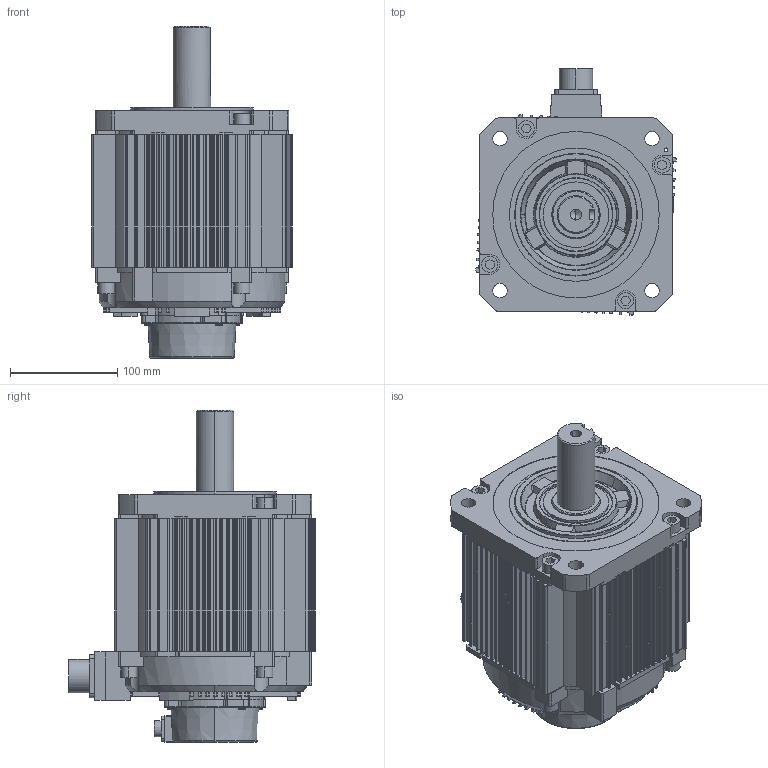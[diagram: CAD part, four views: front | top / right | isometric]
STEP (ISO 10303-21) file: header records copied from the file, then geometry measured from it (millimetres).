
FILE_DESCRIPTION (( 'STEP AP203' ), '1' );
FILE_NAME ('180A-28415.STEP', '2024-09-05T10:51:19', ( '' ), ( '' ), 'SwSTEP 2.0', 'SolidWorks 2018', '' );
FILE_SCHEMA (( 'CONFIG_CONTROL_DESIGN' ));
Length unit declared in the file: millimetre
Products named in the file (9): 18.6,28.4N.M蛌粣; ヶ裔; 28.4N.M儂褲 - 萵掛 (3); 綴裔; CMS3102A22-22P-Z; 蚐猾; 橈勤硉晤鎢ん誘欶  S13E.10-01; 180A-28415; SC-CMV1-R10P-E
Assembly tree (9 placements, depth 2):
  180A-28415
    18.6,28.4N.M蛌粣  x2
    CMS3102A22-22P-Z
    SC-CMV1-R10P-E
    綴裔
    ヶ裔
    蚐猾
    28.4N.M儂褲 - 萵掛 (3)
    橈勤硉晤鎢ん誘欶  S13E.10-01
Bounding box: 186.55 x 229.28 x 309 mm (x, y, z)
Volume: 2276244.5 mm3; surface area: 623340.8 mm2
Topology: 9 solids, 13 shells, 1827 faces, 4970 edges, 3228 vertices
Faces by surface type: plane 887, cylinder 782, cone 73, torus 59, bspline 14, sphere 12
Entity records: 58871 total; most frequent: CARTESIAN_POINT 11423, DIRECTION 10116, ORIENTED_EDGE 9654, EDGE_CURVE 4827, AXIS2_PLACEMENT_3D 3636, VERTEX_POINT 3161, LINE 2844, VECTOR 2844
